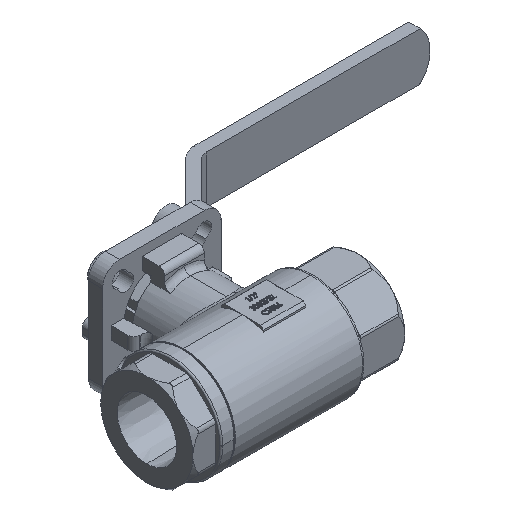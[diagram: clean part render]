
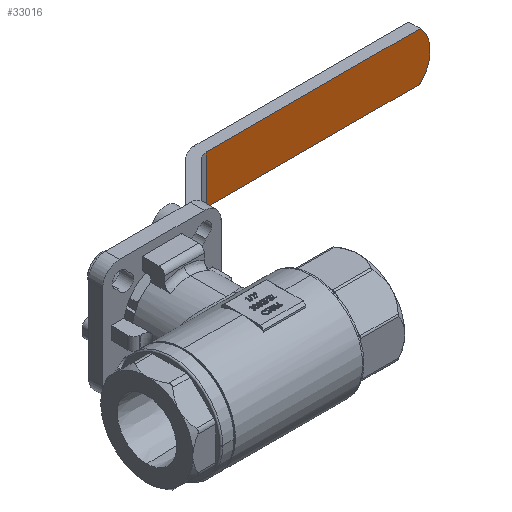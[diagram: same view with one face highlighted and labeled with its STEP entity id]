
A CAD part, isometric view. The second image highlights one B-rep face of the part: STEP entity #33016.
In plain terms, the highlighted planar face has unit normal (0, -1, 0).
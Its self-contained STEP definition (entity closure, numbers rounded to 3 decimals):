
#126 = DIRECTION ( 'NONE',  ( 1., 0., 0. ) ) ;
#1515 = CARTESIAN_POINT ( 'NONE',  ( 130.562, 60.042, -8.5 ) ) ;
#2771 = EDGE_CURVE ( 'NONE', #17179, #8534, #16813, .T. ) ;
#6415 = LINE ( 'NONE', #34897, #28803 ) ;
#7888 = ORIENTED_EDGE ( 'NONE', *, *, #31967, .T. ) ;
#8534 = VERTEX_POINT ( 'NONE', #16215 ) ;
#10136 = VERTEX_POINT ( 'NONE', #18487 ) ;
#11313 = EDGE_CURVE ( 'NONE', #17179, #10136, #6415, .T. ) ;
#12717 = ORIENTED_EDGE ( 'NONE', *, *, #11313, .T. ) ;
#13547 = CARTESIAN_POINT ( 'NONE',  ( 54.891, 60.042, 8.5 ) ) ;
#13615 = CARTESIAN_POINT ( 'NONE',  ( 54.891, 60.042, 8.5 ) ) ;
#14751 = VERTEX_POINT ( 'NONE', #1515 ) ;
#14853 = CARTESIAN_POINT ( 'NONE',  ( 122.091, 60.042, 0. ) ) ;
#16215 = CARTESIAN_POINT ( 'NONE',  ( 130.562, 60.042, 8.5 ) ) ;
#16488 = DIRECTION ( 'NONE',  ( -1., 0., 0. ) ) ;
#16586 = DIRECTION ( 'NONE',  ( 1., 0., 0. ) ) ;
#16813 = LINE ( 'NONE', #13615, #32351 ) ;
#17179 = VERTEX_POINT ( 'NONE', #22752 ) ;
#17789 = DIRECTION ( 'NONE',  ( -1., 0., 0. ) ) ;
#17864 = EDGE_LOOP ( 'NONE', ( #7888, #21002, #37014, #12717 ) ) ;
#18487 = CARTESIAN_POINT ( 'NONE',  ( 54.891, 60.042, -8.5 ) ) ;
#19628 = FACE_OUTER_BOUND ( 'NONE', #17864, .T. ) ;
#20603 = CARTESIAN_POINT ( 'NONE',  ( 54.891, 60.042, -8.5 ) ) ;
#21002 = ORIENTED_EDGE ( 'NONE', *, *, #29475, .T. ) ;
#22752 = CARTESIAN_POINT ( 'NONE',  ( 54.891, 60.042, 8.5 ) ) ;
#23843 = PLANE ( 'NONE',  #30192 ) ;
#23957 = CIRCLE ( 'NONE', #24990, 12. ) ;
#24990 = AXIS2_PLACEMENT_3D ( 'NONE', #14853, #35210, #17789 ) ;
#26112 = VECTOR ( 'NONE', #126, 1000. ) ;
#26292 = DIRECTION ( 'NONE',  ( 0., 0., -1. ) ) ;
#28803 = VECTOR ( 'NONE', #26292, 1000. ) ;
#29475 = EDGE_CURVE ( 'NONE', #14751, #8534, #23957, .T. ) ;
#30192 = AXIS2_PLACEMENT_3D ( 'NONE', #13547, #33938, #16488 ) ;
#31967 = EDGE_CURVE ( 'NONE', #10136, #14751, #34721, .T. ) ;
#32351 = VECTOR ( 'NONE', #16586, 1000. ) ;
#33016 = ADVANCED_FACE ( 'NONE', ( #19628 ), #23843, .F. ) ;
#33938 = DIRECTION ( 'NONE',  ( 0., 1., 0. ) ) ;
#34721 = LINE ( 'NONE', #20603, #26112 ) ;
#34897 = CARTESIAN_POINT ( 'NONE',  ( 54.891, 60.042, 8.5 ) ) ;
#35210 = DIRECTION ( 'NONE',  ( 0., -1., 0. ) ) ;
#37014 = ORIENTED_EDGE ( 'NONE', *, *, #2771, .F. ) ;
